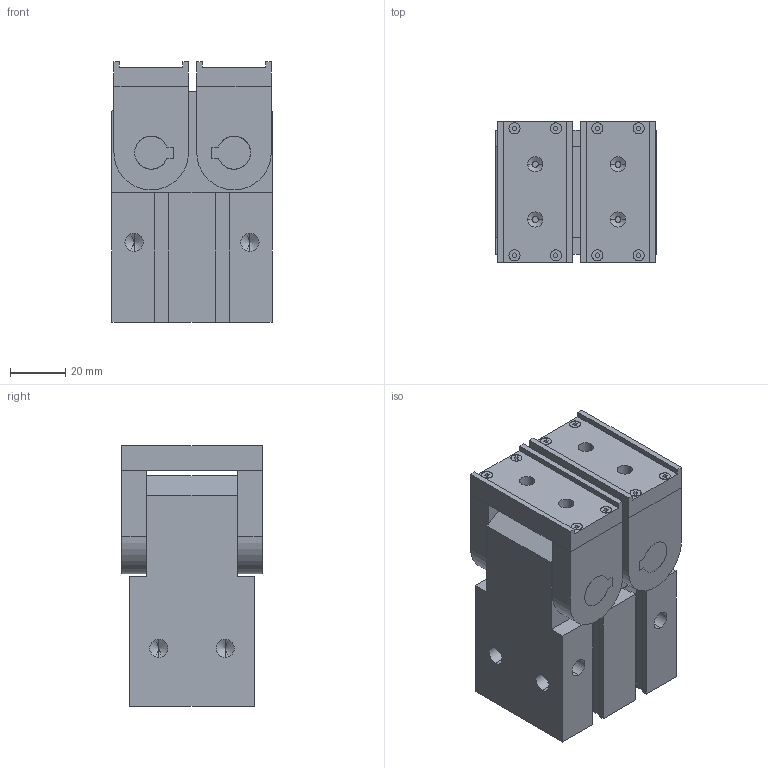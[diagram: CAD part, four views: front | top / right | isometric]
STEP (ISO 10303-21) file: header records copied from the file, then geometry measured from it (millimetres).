
FILE_DESCRIPTION (( 'STEP AP203' ), '1' );
FILE_NAME ('GHK 35 close.STEP', '2013-03-04T09:50:15', ( 'Conseil Régional Haute-Normandie' ), ( 'Conseil Régional Haute-Normandie' ), 'SwSTEP 2.0', 'SolidWorks 2010', '' );
FILE_SCHEMA (( 'CONFIG_CONTROL_DESIGN' ));
Length unit declared in the file: millimetre
Products named in the file (5): Pièce1 ghk_Default; Pièce4 GHK32_Default; GHK 35 close; Pièce5 GHK32_Default; Pièce3  ghk_Default
Assembly tree (9 placements, depth 2):
  GHK 35 close
    Pièce1 ghk_Default
    Pièce4 GHK32_Default  x2
    Pièce3  ghk_Default  x2
    Pièce5 GHK32_Default  x4
Bounding box: 58 x 51 x 94.5 mm (x, y, z)
Volume: 228118.7 mm3; surface area: 51204.2 mm2
Topology: 9 solids, 9 shells, 277 faces, 686 edges, 438 vertices
Faces by surface type: plane 181, cylinder 68, cone 28
Entity records: 5750 total; most frequent: DIRECTION 887, CARTESIAN_POINT 883, ORIENTED_EDGE 842, EDGE_CURVE 421, LINE 327, VECTOR 327, AXIS2_PLACEMENT_3D 280, VERTEX_POINT 276
